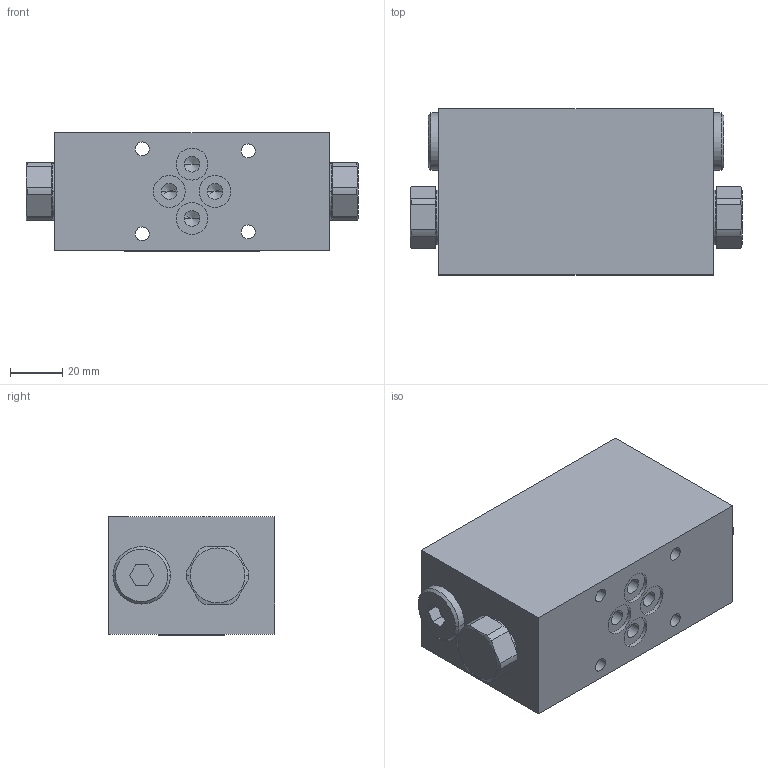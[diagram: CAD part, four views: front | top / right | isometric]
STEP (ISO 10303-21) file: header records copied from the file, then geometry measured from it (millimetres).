
FILE_DESCRIPTION((''),'2;1');
FILE_NAME('TV2_062_MD','2011-03-14T',('tvatras'),(''),'PRO/ENGINEER BY PARAMETRIC TECHNOLOGY CORPORATION, 2010180','PRO/ENGINEER BY PARAMETRIC TECHNOLOGY CORPORATION, 2010180','');
FILE_SCHEMA(('CONFIG_CONTROL_DESIGN'));
Length unit declared in the file: millimetre
Products named in the file (1): TV2_062_MD
Bounding box: 127 x 63.5 x 45.5 mm (x, y, z)
Volume: 303983.4 mm3; surface area: 36560.7 mm2
Topology: 1 solids, 1 shells, 404 faces, 1106 edges, 724 vertices
Faces by surface type: plane 320, cylinder 56, cone 28
Entity records: 12677 total; most frequent: CARTESIAN_POINT 2369, ORIENTED_EDGE 2176, DIRECTION 2008, EDGE_CURVE 1088, VECTOR 938, LINE 938, VERTEX_POINT 720, AXIS2_PLACEMENT_3D 535
